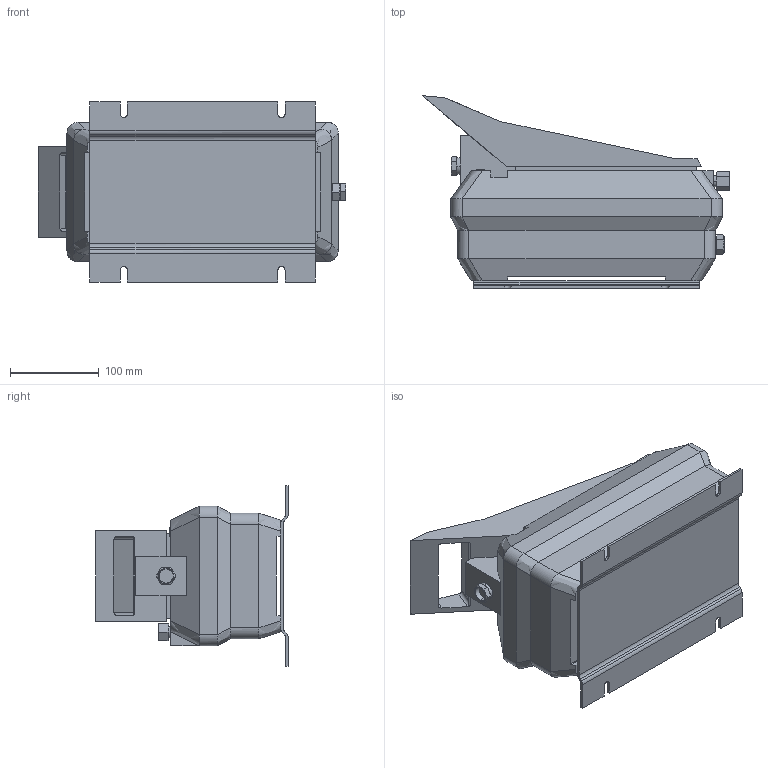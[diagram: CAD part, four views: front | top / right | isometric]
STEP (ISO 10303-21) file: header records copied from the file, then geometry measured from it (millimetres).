
FILE_DESCRIPTION (( 'STEP AP214' ), '1' );
FILE_NAME ('PADEFAU0418127407333.step', '2006-04-18T16:07:41', ( 'sysadmin' ), ( 'SolidWorks' ), 'SwSTEP 2.0', 'SolidWorks 2006079', '' );
FILE_SCHEMA (( 'AUTOMOTIVE_DESIGN' ));
Length unit declared in the file: inch
Products named in the file (1): PADEFAU0418127407333
Bounding box: 346.96 x 216.92 x 203.2 mm (x, y, z)
Volume: 6080778.4 mm3; surface area: 335847.1 mm2
Topology: 1 solids, 1 shells, 239 faces, 637 edges, 404 vertices
Faces by surface type: plane 148, cylinder 51, cone 28, bspline 12
Entity records: 11575 total; most frequent: CARTESIAN_POINT 6076, ORIENTED_EDGE 1274, DIRECTION 887, EDGE_CURVE 637, VECTOR 411, LINE 411, VERTEX_POINT 404, EDGE_LOOP 251
